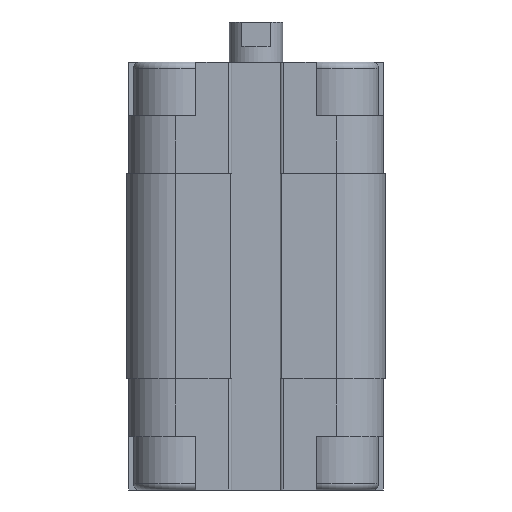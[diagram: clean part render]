
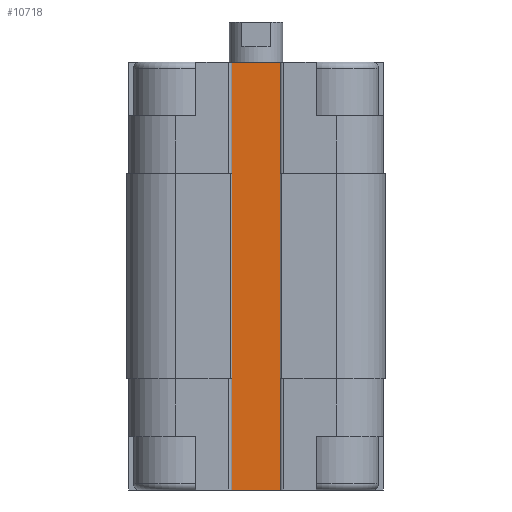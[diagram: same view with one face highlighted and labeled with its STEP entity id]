
A CAD part, front view. The second image highlights one B-rep face of the part: STEP entity #10718.
In plain terms, the highlighted planar face has unit normal (0, -1, 0).
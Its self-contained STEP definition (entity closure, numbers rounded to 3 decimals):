
#34 = DIRECTION ( 'NONE',  ( 1., 0., 0. ) ) ;
#218 = ORIENTED_EDGE ( 'NONE', *, *, #1551, .T. ) ;
#273 = VECTOR ( 'NONE', #8838, 1000. ) ;
#528 = CARTESIAN_POINT ( 'NONE',  ( -3.2, -9.5, -12.5 ) ) ;
#960 = CARTESIAN_POINT ( 'NONE',  ( -3., -9.5, -48. ) ) ;
#1108 = CARTESIAN_POINT ( 'NONE',  ( -3.2, -9.5, -35.5 ) ) ;
#1143 = EDGE_CURVE ( 'NONE', #13525, #12966, #16771, .T. ) ;
#1551 = EDGE_CURVE ( 'NONE', #9897, #13958, #7854, .T. ) ;
#1894 = VECTOR ( 'NONE', #3286, 1000. ) ;
#2131 = PLANE ( 'NONE',  #15255 ) ;
#2190 = DIRECTION ( 'NONE',  ( 0., 0., 1. ) ) ;
#2275 = CARTESIAN_POINT ( 'NONE',  ( 3., -9.5, -48. ) ) ;
#2304 = CARTESIAN_POINT ( 'NONE',  ( -3., -9.5, -35.5 ) ) ;
#2425 = LINE ( 'NONE', #15510, #273 ) ;
#2502 = CARTESIAN_POINT ( 'NONE',  ( -3.2, -9.5, -35.5 ) ) ;
#2670 = VECTOR ( 'NONE', #15055, 1000. ) ;
#2927 = CARTESIAN_POINT ( 'NONE',  ( 3.2, -9.5, -35.5 ) ) ;
#2973 = VECTOR ( 'NONE', #6662, 1000. ) ;
#3118 = LINE ( 'NONE', #13822, #2973 ) ;
#3278 = VECTOR ( 'NONE', #4176, 1000. ) ;
#3286 = DIRECTION ( 'NONE',  ( 0., 0., 1. ) ) ;
#3596 = CARTESIAN_POINT ( 'NONE',  ( 9., -9.5, -12.5 ) ) ;
#3626 = DIRECTION ( 'NONE',  ( 0., 0., 1. ) ) ;
#3654 = ORIENTED_EDGE ( 'NONE', *, *, #4025, .T. ) ;
#3769 = ORIENTED_EDGE ( 'NONE', *, *, #12184, .T. ) ;
#3992 = ORIENTED_EDGE ( 'NONE', *, *, #10257, .T. ) ;
#4025 = EDGE_CURVE ( 'NONE', #15048, #12418, #10270, .T. ) ;
#4137 = EDGE_CURVE ( 'NONE', #9897, #5950, #13808, .T. ) ;
#4176 = DIRECTION ( 'NONE',  ( 0., 0., 1. ) ) ;
#4561 = DIRECTION ( 'NONE',  ( 1., 0., 0. ) ) ;
#4683 = CARTESIAN_POINT ( 'NONE',  ( -3., -9.5, -12.5 ) ) ;
#5015 = CARTESIAN_POINT ( 'NONE',  ( -3., -9.5, -12.5 ) ) ;
#5096 = VERTEX_POINT ( 'NONE', #2927 ) ;
#5524 = VECTOR ( 'NONE', #6297, 1000. ) ;
#5575 = CARTESIAN_POINT ( 'NONE',  ( 3.2, -9.5, -35.5 ) ) ;
#5753 = CARTESIAN_POINT ( 'NONE',  ( 3., -9.5, -35.5 ) ) ;
#5770 = DIRECTION ( 'NONE',  ( 1., 0., 0. ) ) ;
#5950 = VERTEX_POINT ( 'NONE', #528 ) ;
#6177 = VERTEX_POINT ( 'NONE', #16944 ) ;
#6297 = DIRECTION ( 'NONE',  ( 0., 0., 1. ) ) ;
#6662 = DIRECTION ( 'NONE',  ( 1., 0., 0. ) ) ;
#7003 = CARTESIAN_POINT ( 'NONE',  ( 3., -9.5, 0. ) ) ;
#7854 = LINE ( 'NONE', #2502, #15496 ) ;
#8318 = VECTOR ( 'NONE', #3626, 1000. ) ;
#8694 = EDGE_CURVE ( 'NONE', #14395, #13958, #2425, .T. ) ;
#8732 = CARTESIAN_POINT ( 'NONE',  ( 3., -9.5, -48. ) ) ;
#8812 = EDGE_LOOP ( 'NONE', ( #13603, #13618, #15246, #13246, #218, #15955, #3769, #3654, #3992, #9266, #12598, #11457 ) ) ;
#8838 = DIRECTION ( 'NONE',  ( 0., 0., 1. ) ) ;
#9266 = ORIENTED_EDGE ( 'NONE', *, *, #13288, .T. ) ;
#9539 = EDGE_CURVE ( 'NONE', #13525, #10346, #10276, .T. ) ;
#9897 = VERTEX_POINT ( 'NONE', #1108 ) ;
#10096 = CARTESIAN_POINT ( 'NONE',  ( -3., -9.5, -12.5 ) ) ;
#10257 = EDGE_CURVE ( 'NONE', #12418, #5096, #11208, .T. ) ;
#10270 = LINE ( 'NONE', #2275, #5524 ) ;
#10276 = LINE ( 'NONE', #3596, #11205 ) ;
#10346 = VERTEX_POINT ( 'NONE', #13118 ) ;
#10493 = CARTESIAN_POINT ( 'NONE',  ( 3., -9.5, -12.5 ) ) ;
#10718 = ADVANCED_FACE ( 'NONE', ( #11618 ), #2131, .T. ) ;
#11205 = VECTOR ( 'NONE', #15786, 1000. ) ;
#11208 = LINE ( 'NONE', #16367, #2670 ) ;
#11457 = ORIENTED_EDGE ( 'NONE', *, *, #1143, .T. ) ;
#11618 = FACE_OUTER_BOUND ( 'NONE', #8812, .T. ) ;
#12184 = EDGE_CURVE ( 'NONE', #14395, #15048, #12385, .T. ) ;
#12385 = LINE ( 'NONE', #16600, #16978 ) ;
#12418 = VERTEX_POINT ( 'NONE', #5753 ) ;
#12456 = CARTESIAN_POINT ( 'NONE',  ( -3., -9.5, 0. ) ) ;
#12598 = ORIENTED_EDGE ( 'NONE', *, *, #9539, .F. ) ;
#12966 = VERTEX_POINT ( 'NONE', #7003 ) ;
#12999 = VERTEX_POINT ( 'NONE', #10096 ) ;
#13118 = CARTESIAN_POINT ( 'NONE',  ( 3.2, -9.5, -12.5 ) ) ;
#13246 = ORIENTED_EDGE ( 'NONE', *, *, #4137, .F. ) ;
#13288 = EDGE_CURVE ( 'NONE', #5096, #10346, #13820, .T. ) ;
#13525 = VERTEX_POINT ( 'NONE', #10493 ) ;
#13603 = ORIENTED_EDGE ( 'NONE', *, *, #15847, .F. ) ;
#13618 = ORIENTED_EDGE ( 'NONE', *, *, #15079, .F. ) ;
#13808 = LINE ( 'NONE', #14718, #1894 ) ;
#13820 = LINE ( 'NONE', #5575, #3278 ) ;
#13822 = CARTESIAN_POINT ( 'NONE',  ( -3.2, -9.5, -12.5 ) ) ;
#13958 = VERTEX_POINT ( 'NONE', #2304 ) ;
#14200 = CARTESIAN_POINT ( 'NONE',  ( 3., -9.5, -12.5 ) ) ;
#14395 = VERTEX_POINT ( 'NONE', #960 ) ;
#14584 = EDGE_CURVE ( 'NONE', #5950, #12999, #3118, .T. ) ;
#14718 = CARTESIAN_POINT ( 'NONE',  ( -3.2, -9.5, -35.5 ) ) ;
#15048 = VERTEX_POINT ( 'NONE', #8732 ) ;
#15055 = DIRECTION ( 'NONE',  ( 1., 0., 0. ) ) ;
#15079 = EDGE_CURVE ( 'NONE', #12999, #6177, #16892, .T. ) ;
#15246 = ORIENTED_EDGE ( 'NONE', *, *, #14584, .F. ) ;
#15255 = AXIS2_PLACEMENT_3D ( 'NONE', #5015, #15558, #16963 ) ;
#15496 = VECTOR ( 'NONE', #34, 1000. ) ;
#15510 = CARTESIAN_POINT ( 'NONE',  ( -3., -9.5, -48. ) ) ;
#15558 = DIRECTION ( 'NONE',  ( 0., -1., 0. ) ) ;
#15786 = DIRECTION ( 'NONE',  ( 1., 0., 0. ) ) ;
#15847 = EDGE_CURVE ( 'NONE', #6177, #12966, #16672, .T. ) ;
#15955 = ORIENTED_EDGE ( 'NONE', *, *, #8694, .F. ) ;
#16015 = VECTOR ( 'NONE', #2190, 1000. ) ;
#16367 = CARTESIAN_POINT ( 'NONE',  ( -3.2, -9.5, -35.5 ) ) ;
#16600 = CARTESIAN_POINT ( 'NONE',  ( -3., -9.5, -48. ) ) ;
#16639 = VECTOR ( 'NONE', #5770, 1000. ) ;
#16672 = LINE ( 'NONE', #12456, #16639 ) ;
#16771 = LINE ( 'NONE', #14200, #16015 ) ;
#16892 = LINE ( 'NONE', #4683, #8318 ) ;
#16944 = CARTESIAN_POINT ( 'NONE',  ( -3., -9.5, 0. ) ) ;
#16963 = DIRECTION ( 'NONE',  ( -1., 0., 0. ) ) ;
#16978 = VECTOR ( 'NONE', #4561, 1000. ) ;
